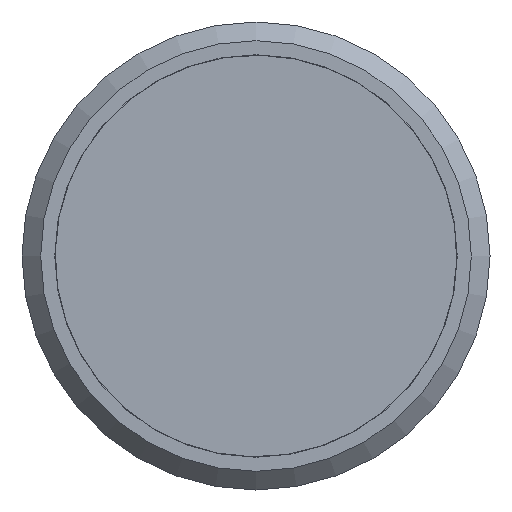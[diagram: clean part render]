
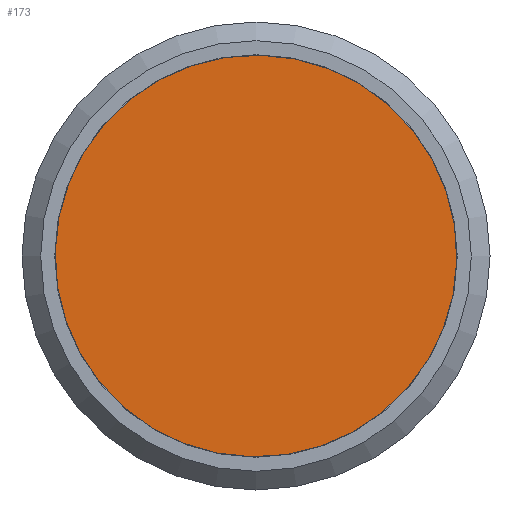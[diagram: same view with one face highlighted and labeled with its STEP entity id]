
A CAD part, left-side view. The second image highlights one B-rep face of the part: STEP entity #173.
In plain terms, the highlighted planar face has unit normal (-1, 0, 0).
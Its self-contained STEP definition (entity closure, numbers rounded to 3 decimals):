
#173 = ADVANCED_FACE( '', ( #216 ), #217, .T. );
#216 = FACE_OUTER_BOUND( '', #277, .T. );
#217 = PLANE( '', #278 );
#277 = EDGE_LOOP( '', ( #359 ) );
#278 = AXIS2_PLACEMENT_3D( '', #360, #361, #362 );
#359 = ORIENTED_EDGE( '', *, *, #421, .T. );
#360 = CARTESIAN_POINT( '', ( 0., 0., 0. ) );
#361 = DIRECTION( '', ( -1., 0., 0. ) );
#362 = DIRECTION( '', ( 0., 0., 1. ) );
#421 = EDGE_CURVE( '', #450, #450, #451, .T. );
#450 = VERTEX_POINT( '', #488 );
#451 = CIRCLE( '', #489, 12.875 );
#488 = CARTESIAN_POINT( '', ( 0., 0., 12.875 ) );
#489 = AXIS2_PLACEMENT_3D( '', #536, #537, #538 );
#536 = CARTESIAN_POINT( '', ( 0., 0., 0. ) );
#537 = DIRECTION( '', ( -1., 0., 0. ) );
#538 = DIRECTION( '', ( 0., 0., 1. ) );
